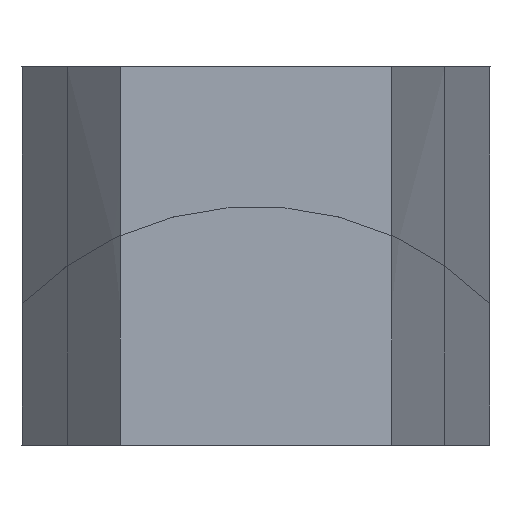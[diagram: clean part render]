
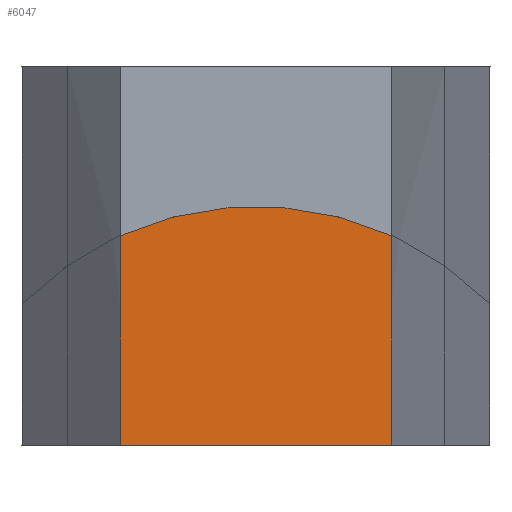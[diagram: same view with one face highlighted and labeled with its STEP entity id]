
A CAD part, left-side view. The second image highlights one B-rep face of the part: STEP entity #6047.
In plain terms, the highlighted planar face has unit normal (-1, 0, 0).
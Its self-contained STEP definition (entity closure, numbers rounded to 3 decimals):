
#128=LINE('',#20462,#578);
#129=LINE('',#20463,#579);
#130=LINE('',#20464,#580);
#578=VECTOR('',#6616,10.);
#579=VECTOR('',#6617,10.);
#580=VECTOR('',#6618,10.);
#1028=PLANE('',#6382);
#1142=FACE_OUTER_BOUND('',#1452,.T.);
#1452=EDGE_LOOP('',(#4004,#4005,#4006,#4007));
#1783=CIRCLE('',#6377,17.5);
#2315=VERTEX_POINT('',#20120);
#2316=VERTEX_POINT('',#20127);
#2334=VERTEX_POINT('',#20460);
#2335=VERTEX_POINT('',#20461);
#3002=EDGE_CURVE('',#2315,#2316,#1783,.T.);
#3023=EDGE_CURVE('',#2334,#2335,#128,.T.);
#3024=EDGE_CURVE('',#2334,#2316,#129,.F.);
#3025=EDGE_CURVE('',#2315,#2335,#130,.F.);
#4004=ORIENTED_EDGE('',*,*,#3023,.F.);
#4005=ORIENTED_EDGE('',*,*,#3024,.T.);
#4006=ORIENTED_EDGE('',*,*,#3002,.F.);
#4007=ORIENTED_EDGE('',*,*,#3025,.T.);
#6047=ADVANCED_FACE('',(#1142),#1028,.F.);
#6377=AXIS2_PLACEMENT_3D('',#20128,#6604,#6605);
#6382=AXIS2_PLACEMENT_3D('',#20459,#6614,#6615);
#6604=DIRECTION('center_axis',(1.,0.,0.));
#6605=DIRECTION('ref_axis',(0.,-1.,0.));
#6614=DIRECTION('center_axis',(1.,0.,0.));
#6615=DIRECTION('ref_axis',(0.,0.,-1.));
#6616=DIRECTION('',(0.,1.,0.));
#6617=DIRECTION('',(0.,0.,-1.));
#6618=DIRECTION('',(0.,0.,1.));
#20120=CARTESIAN_POINT('',(-108.,7.187,11.069));
#20127=CARTESIAN_POINT('',(-108.,-7.186,11.069));
#20128=CARTESIAN_POINT('Origin',(-108.,0.,-4.887));
#20459=CARTESIAN_POINT('Origin',(-108.,0.,0.));
#20460=CARTESIAN_POINT('',(-108.,-7.186,0.));
#20461=CARTESIAN_POINT('',(-108.,7.187,0.));
#20462=CARTESIAN_POINT('',(-108.,0.,0.));
#20463=CARTESIAN_POINT('',(-108.,-7.186,11.069));
#20464=CARTESIAN_POINT('',(-108.,7.187,0.));
